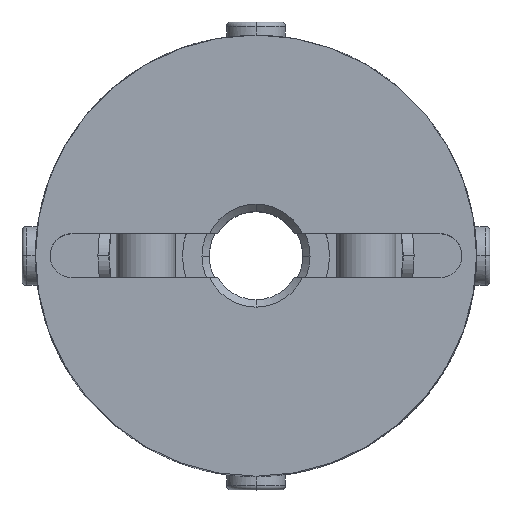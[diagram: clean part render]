
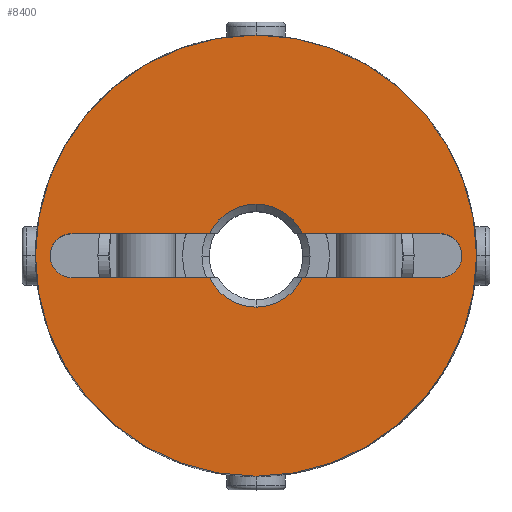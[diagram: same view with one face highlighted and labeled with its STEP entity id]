
A CAD part, top view. The second image highlights one B-rep face of the part: STEP entity #8400.
In plain terms, the highlighted planar face has unit normal (0, 0, 1).
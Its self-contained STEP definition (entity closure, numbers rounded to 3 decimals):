
#649=CARTESIAN_POINT('',(0.,3.5,15.0));
#650=VERTEX_POINT('',#649);
#666=CARTESIAN_POINT('',(3.162,1.5,15.0));
#667=VERTEX_POINT('',#666);
#681=CARTESIAN_POINT('',(0.,0.,15.0));
#682=DIRECTION('',(0.0,0.0,1.0));
#683=DIRECTION('',(0.0,1.0,0.0));
#684=AXIS2_PLACEMENT_3D('',#681,#682,#683);
#685=CIRCLE('',#684,3.5);
#686=EDGE_CURVE('',#667,#650,#685,.T.);
#696=CARTESIAN_POINT('',(0.,-3.5,15.0));
#697=VERTEX_POINT('',#696);
#706=CARTESIAN_POINT('',(3.162,-1.5,15.0));
#707=VERTEX_POINT('',#706);
#708=CARTESIAN_POINT('',(0.,0.,15.0));
#709=DIRECTION('',(0.0,0.0,1.0));
#710=DIRECTION('',(0.0,1.0,0.0));
#711=AXIS2_PLACEMENT_3D('',#708,#709,#710);
#712=CIRCLE('',#711,3.5);
#713=EDGE_CURVE('',#697,#707,#712,.T.);
#872=CARTESIAN_POINT('',(-13.561,-1.061,15.0));
#873=VERTEX_POINT('',#872);
#889=CARTESIAN_POINT('',(-12.5,1.5,15.0));
#890=VERTEX_POINT('',#889);
#897=CARTESIAN_POINT('',(-12.5,0.,15.0));
#898=DIRECTION('',(0.0,0.0,1.0));
#899=DIRECTION('',(-0.707,0.707,0.0));
#900=AXIS2_PLACEMENT_3D('',#897,#898,#899);
#901=CIRCLE('',#900,1.5);
#902=EDGE_CURVE('',#890,#873,#901,.T.);
#914=CARTESIAN_POINT('',(13.561,-1.061,15.0));
#915=VERTEX_POINT('',#914);
#931=CARTESIAN_POINT('',(12.5,-1.5,15.0));
#932=VERTEX_POINT('',#931);
#939=CARTESIAN_POINT('',(12.5,0.,15.0));
#940=DIRECTION('',(0.0,0.0,1.0));
#941=DIRECTION('',(0.707,-0.707,0.0));
#942=AXIS2_PLACEMENT_3D('',#939,#940,#941);
#943=CIRCLE('',#942,1.5);
#944=EDGE_CURVE('',#932,#915,#943,.T.);
#1489=CARTESIAN_POINT('',(0.,-15.,15.0));
#1490=VERTEX_POINT('',#1489);
#1497=CARTESIAN_POINT('',(0.,15.0,15.0));
#1498=VERTEX_POINT('',#1497);
#1499=CARTESIAN_POINT('',(0.,0.,15.0));
#1500=DIRECTION('',(0.0,0.0,-1.0));
#1501=DIRECTION('',(0.0,1.0,0.0));
#1502=AXIS2_PLACEMENT_3D('',#1499,#1500,#1501);
#1503=CIRCLE('',#1502,15.0);
#1504=EDGE_CURVE('',#1490,#1498,#1503,.T.);
#7601=CARTESIAN_POINT('',(0.,0.,15.0));
#7602=DIRECTION('',(0.0,0.0,-1.0));
#7603=DIRECTION('',(0.0,1.0,0.0));
#7604=AXIS2_PLACEMENT_3D('',#7601,#7602,#7603);
#7605=CIRCLE('',#7604,15.0);
#7606=EDGE_CURVE('',#1498,#1490,#7605,.T.);
#8166=CARTESIAN_POINT('',(12.5,1.5,15.0));
#8167=VERTEX_POINT('',#8166);
#8174=CARTESIAN_POINT('',(3.162,1.5,15.0));
#8175=DIRECTION('',(1.0,0.0,0.0));
#8176=VECTOR('',#8175,9.338);
#8177=LINE('',#8174,#8176);
#8178=EDGE_CURVE('',#667,#8167,#8177,.T.);
#8202=CARTESIAN_POINT('',(12.5,0.,15.0));
#8203=DIRECTION('',(0.0,0.0,1.0));
#8204=DIRECTION('',(0.707,-0.707,0.0));
#8205=AXIS2_PLACEMENT_3D('',#8202,#8203,#8204);
#8206=CIRCLE('',#8205,1.5);
#8207=EDGE_CURVE('',#915,#8167,#8206,.T.);
#8220=CARTESIAN_POINT('',(-12.5,-1.5,15.0));
#8221=VERTEX_POINT('',#8220);
#8222=CARTESIAN_POINT('',(-12.5,0.,15.0));
#8223=DIRECTION('',(0.0,0.0,1.0));
#8224=DIRECTION('',(-0.707,0.707,0.0));
#8225=AXIS2_PLACEMENT_3D('',#8222,#8223,#8224);
#8226=CIRCLE('',#8225,1.5);
#8227=EDGE_CURVE('',#873,#8221,#8226,.T.);
#8260=CARTESIAN_POINT('',(-3.162,1.5,15.0));
#8261=VERTEX_POINT('',#8260);
#8275=CARTESIAN_POINT('',(-12.5,1.5,15.0));
#8276=DIRECTION('',(1.0,0.0,0.0));
#8277=VECTOR('',#8276,9.338);
#8278=LINE('',#8275,#8277);
#8279=EDGE_CURVE('',#890,#8261,#8278,.T.);
#8294=CARTESIAN_POINT('',(-3.162,-1.5,15.0));
#8295=VERTEX_POINT('',#8294);
#8296=CARTESIAN_POINT('',(-3.162,-1.5,15.0));
#8297=DIRECTION('',(-1.0,0.0,0.0));
#8298=VECTOR('',#8297,9.338);
#8299=LINE('',#8296,#8298);
#8300=EDGE_CURVE('',#8295,#8221,#8299,.T.);
#8352=CARTESIAN_POINT('',(12.5,-1.5,15.0));
#8353=DIRECTION('',(-1.0,0.0,0.0));
#8354=VECTOR('',#8353,9.338);
#8355=LINE('',#8352,#8354);
#8356=EDGE_CURVE('',#932,#707,#8355,.T.);
#8365=CARTESIAN_POINT('',(0.,1.364,15.0));
#8366=DIRECTION('',(0.0,0.0,1.0));
#8367=DIRECTION('',(0.0,1.0,0.0));
#8368=AXIS2_PLACEMENT_3D('',#8365,#8366,#8367);
#8369=PLANE('',#8368);
#8370=ORIENTED_EDGE('',*,*,#7606,.F.);
#8371=ORIENTED_EDGE('',*,*,#1504,.F.);
#8372=EDGE_LOOP('',(#8370,#8371));
#8373=FACE_OUTER_BOUND('',#8372,.T.);
#8374=ORIENTED_EDGE('',*,*,#8178,.T.);
#8375=ORIENTED_EDGE('',*,*,#8207,.F.);
#8376=ORIENTED_EDGE('',*,*,#944,.F.);
#8377=ORIENTED_EDGE('',*,*,#8356,.T.);
#8378=ORIENTED_EDGE('',*,*,#713,.F.);
#8379=CARTESIAN_POINT('',(0.,0.,15.0));
#8380=DIRECTION('',(0.0,0.0,1.0));
#8381=DIRECTION('',(0.0,1.0,0.0));
#8382=AXIS2_PLACEMENT_3D('',#8379,#8380,#8381);
#8383=CIRCLE('',#8382,3.5);
#8384=EDGE_CURVE('',#8295,#697,#8383,.T.);
#8385=ORIENTED_EDGE('',*,*,#8384,.F.);
#8386=ORIENTED_EDGE('',*,*,#8300,.T.);
#8387=ORIENTED_EDGE('',*,*,#8227,.F.);
#8388=ORIENTED_EDGE('',*,*,#902,.F.);
#8389=ORIENTED_EDGE('',*,*,#8279,.T.);
#8390=CARTESIAN_POINT('',(0.,0.,15.0));
#8391=DIRECTION('',(0.0,0.0,1.0));
#8392=DIRECTION('',(0.0,1.0,0.0));
#8393=AXIS2_PLACEMENT_3D('',#8390,#8391,#8392);
#8394=CIRCLE('',#8393,3.5);
#8395=EDGE_CURVE('',#650,#8261,#8394,.T.);
#8396=ORIENTED_EDGE('',*,*,#8395,.F.);
#8397=ORIENTED_EDGE('',*,*,#686,.F.);
#8398=EDGE_LOOP('',(#8374,#8375,#8376,#8377,#8378,#8385,#8386,#8387,#8388,#8389,#8396,#8397));
#8399=FACE_BOUND('',#8398,.T.);
#8400=ADVANCED_FACE('',(#8373,#8399),#8369,.T.);
